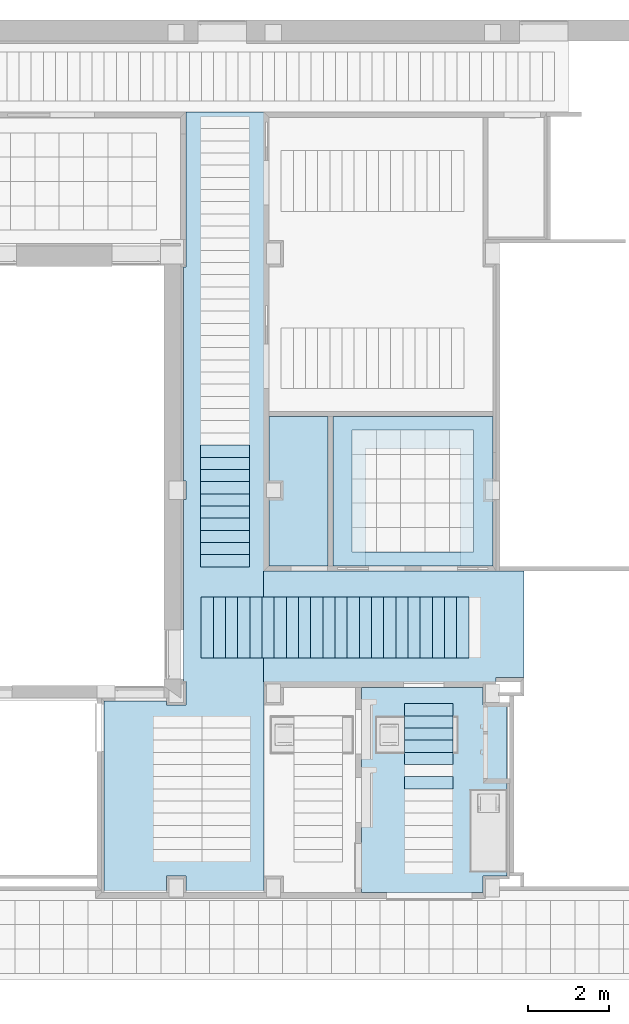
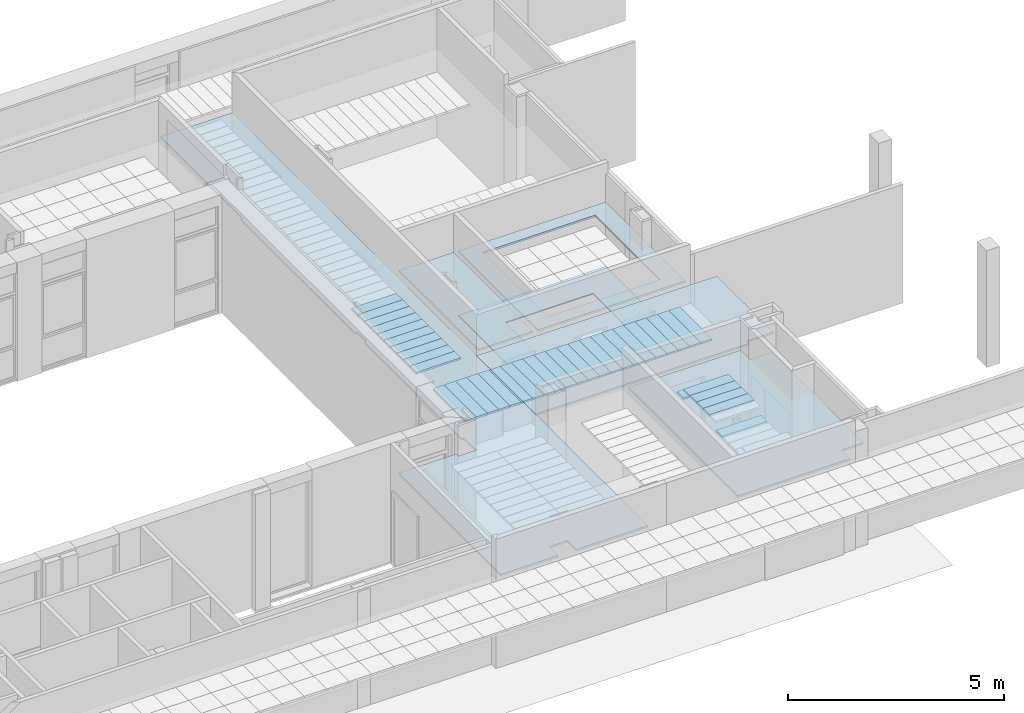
# One storey, part 11 of 60: 44 slabs.
"""IFC2X3 building model written with IfcOpenShell, lengths in millimetres."""

from ifc_helpers import new_model, entity, si_unit, converted_unit, derived_unit, money_unit, direction, frame, origin_with_axes, place, context, subcontext, project, spatial, polyline, outline, extrude, material, layer, layer_set, layer_usage, type_object, element, save


model = new_model("IFC2X3")

# Units and contexts
model_context = context("Model", 3, precision=0.01, world=origin_with_axes(), true_north=direction((0.0, 1.0)))
body_context = subcontext(model_context, "Body", "Model", "MODEL_VIEW")
ifc_project = project(units=[si_unit("LENGTHUNIT", "METRE", prefix="MILLI"), si_unit("AREAUNIT", "SQUARE_METRE"), si_unit("VOLUMEUNIT", "CUBIC_METRE"), converted_unit("PLANEANGLEUNIT", "DEGREE", entity("IfcPlaneAngleMeasure", 0.0174532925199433), si_unit("PLANEANGLEUNIT", "RADIAN"), dimensions=[0, 0, 0, 0, 0, 0, 0]), money_unit("USD"), converted_unit("TIMEUNIT", "Year", entity("IfcTimeMeasure", 31557600.0), si_unit("TIMEUNIT", "SECOND"), dimensions=[0, 0, 1, 0, 0, 0, 0]), si_unit("MASSUNIT", "GRAM", prefix="KILO"), si_unit("THERMODYNAMICTEMPERATUREUNIT", "DEGREE_CELSIUS"), si_unit("LUMINOUSINTENSITYUNIT", "LUMEN"), si_unit("ENERGYUNIT", "JOULE", prefix="MEGA"), derived_unit("THERMALCONDUCTANCEUNIT", [(si_unit("POWERUNIT", "WATT"), 1), (si_unit("LENGTHUNIT", "METRE"), -1), (si_unit("THERMODYNAMICTEMPERATUREUNIT", "KELVIN"), -1)]), derived_unit("SPECIFICHEATCAPACITYUNIT", [(si_unit("ENERGYUNIT", "JOULE"), 1), (si_unit("MASSUNIT", "GRAM", prefix="KILO"), -1), (si_unit("THERMODYNAMICTEMPERATUREUNIT", "KELVIN"), -1)]), derived_unit("MASSDENSITYUNIT", [(si_unit("MASSUNIT", "GRAM", prefix="KILO"), 1), (si_unit("VOLUMEUNIT", "CUBIC_METRE"), -1)])], contexts=[model_context])

# Site, building, storey
site_placement = place(None, origin_with_axes())
site = spatial("IfcSite", under=ifc_project, at=site_placement, Name="Sitio", CompositionType="ELEMENT")
building_placement = place(site_placement, origin_with_axes())
building = spatial("IfcBuilding", under=site, at=building_placement, Name="Construcción", CompositionType="ELEMENT")
storey_placement = place(building_placement, frame((0.0, 0.0, 3650.0), z_axis=(0.0, 0.0, 1.0), x_axis=(1.0, 0.0, 0.0)))
storey = spatial("IfcBuildingStorey", under=building, at=storey_placement, Name="PLANTA 2ª", CompositionType="ELEMENT", Elevation=3650.0)

# Slabs
ifc_material_1 = material(Name="ARQ_ME126_CelRas_Placa_Metallica")
ifc_layer_1 = layer(ifc_material_1, 50.0, ventilated="UNKNOWN")
ifc_layer_set_1 = layer_set([ifc_layer_1], Name="ARQ_ME126_CelRas_Placa_Metallica 50")
ifc_layer_usage_1 = layer_usage(ifc_layer_set_1, "AXIS3", "NEGATIVE", 50.0)
slab_type_1 = type_object("IfcSlabType", Name="ARQ_ME126_CelRas_Placa_Metallica 50", PredefinedType="NOTDEFINED")
slab_1_placement = place(storey_placement, frame((3832.900750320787, -13971.4759060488, 2500.0), z_axis=(0.0, 0.0, 1.0), x_axis=(1.0, 0.0, 0.0)))
element("IfcSlab", 1, at=slab_1_placement, inside=storey, type_object=slab_type_1, material=ifc_layer_usage_1, Name="SLA - 026", PredefinedType="NOTDEFINED", context=body_context, shape_type="SweptSolid", body=[
    extrude(outline(polyline([(0.0, 0.0), (1199.999999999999, 0.0), (1199.999999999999, 299.9999999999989), (0.0, 299.9999999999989), (0.0, 0.0)])), frame((0.0, 0.0, -50.0), z_axis=(0.0, 0.0, 1.0), x_axis=(1.0, 0.0, 0.0)), (0.0, 0.0, 1.0), 50.0),
])
ifc_layer_usage_2 = layer_usage(ifc_layer_set_1, "AXIS3", "NEGATIVE", 50.0)
slab_2_placement = place(storey_placement, frame((3832.900750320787, -14571.4759060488, 2250.0), z_axis=(0.0, 0.0, 1.0), x_axis=(1.0, 0.0, 0.0)))
element("IfcSlab", 2, at=slab_2_placement, inside=storey, type_object=slab_type_1, material=ifc_layer_usage_2, Name="SLA - 026", PredefinedType="NOTDEFINED", context=body_context, shape_type="SweptSolid", body=[
    extrude(outline(polyline([(0.0, 0.0), (1199.999999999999, 0.0), (1199.999999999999, 299.9999999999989), (0.0, 299.9999999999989), (0.0, 0.0)])), frame((0.0, 0.0, -50.0), z_axis=(0.0, 0.0, 1.0), x_axis=(1.0, 0.0, 0.0)), (0.0, 0.0, 1.0), 50.0),
])
ifc_layer_usage_3 = layer_usage(ifc_layer_set_1, "AXIS3", "NEGATIVE", 50.0)
slab_3_placement = place(storey_placement, frame((3832.900750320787, -13671.4759060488, 2500.0), z_axis=(0.0, 0.0, 1.0), x_axis=(1.0, 0.0, 0.0)))
element("IfcSlab", 3, at=slab_3_placement, inside=storey, type_object=slab_type_1, material=ifc_layer_usage_3, Name="SLA - 026", PredefinedType="NOTDEFINED", context=body_context, shape_type="SweptSolid", body=[
    extrude(outline(polyline([(0.0, 0.0), (1199.999999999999, 0.0), (1199.999999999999, 299.9999999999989), (0.0, 299.9999999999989), (0.0, 0.0)])), frame((0.0, 0.0, -50.0), z_axis=(0.0, 0.0, 1.0), x_axis=(1.0, 0.0, 0.0)), (0.0, 0.0, 1.0), 50.0),
])
ifc_layer_usage_4 = layer_usage(ifc_layer_set_1, "AXIS3", "NEGATIVE", 50.0)
slab_4_placement = place(storey_placement, frame((3832.900750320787, -13371.4759060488, 2500.0), z_axis=(0.0, 0.0, 1.0), x_axis=(1.0, 0.0, 0.0)))
element("IfcSlab", 4, at=slab_4_placement, inside=storey, type_object=slab_type_1, material=ifc_layer_usage_4, Name="SLA - 026", PredefinedType="NOTDEFINED", context=body_context, shape_type="SweptSolid", body=[
    extrude(outline(polyline([(0.0, 0.0), (1199.999999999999, 0.0), (1199.999999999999, 299.9999999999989), (0.0, 299.9999999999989), (0.0, 0.0)])), frame((0.0, 0.0, -50.0), z_axis=(0.0, 0.0, 1.0), x_axis=(1.0, 0.0, 0.0)), (0.0, 0.0, 1.0), 50.0),
])
ifc_layer_usage_5 = layer_usage(ifc_layer_set_1, "AXIS3", "NEGATIVE", 50.0)
slab_5_placement = place(storey_placement, frame((3832.900750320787, -12771.4759060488, 2250.0), z_axis=(0.0, 0.0, 1.0), x_axis=(1.0, 0.0, 0.0)))
element("IfcSlab", 5, at=slab_5_placement, inside=storey, type_object=slab_type_1, material=ifc_layer_usage_5, Name="SLA - 026", PredefinedType="NOTDEFINED", context=body_context, shape_type="SweptSolid", body=[
    extrude(outline(polyline([(0.0, 0.0), (1199.999999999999, 0.0), (1199.999999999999, 299.9999999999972), (0.0, 299.9999999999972), (0.0, 0.0)])), frame((0.0, 0.0, -50.0), z_axis=(0.0, 0.0, 1.0), x_axis=(1.0, 0.0, 0.0)), (0.0, 0.0, 1.0), 50.0),
])
ifc_layer_usage_6 = layer_usage(ifc_layer_set_1, "AXIS3", "NEGATIVE", 50.0)
slab_6_placement = place(storey_placement, frame((3832.900750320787, -13071.4759060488, 2500.0), z_axis=(0.0, 0.0, 1.0), x_axis=(1.0, 0.0, 0.0)))
element("IfcSlab", 6, at=slab_6_placement, inside=storey, type_object=slab_type_1, material=ifc_layer_usage_6, Name="SLA - 026", PredefinedType="NOTDEFINED", context=body_context, shape_type="SweptSolid", body=[
    extrude(outline(polyline([(0.0, 0.0), (1199.999999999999, 0.0), (1199.999999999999, 299.9999999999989), (0.0, 299.9999999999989), (0.0, 0.0)])), frame((0.0, 0.0, -50.0), z_axis=(0.0, 0.0, 1.0), x_axis=(1.0, 0.0, 0.0)), (0.0, 0.0, 1.0), 50.0),
])
ifc_layer_usage_7 = layer_usage(ifc_layer_set_1, "AXIS3", "NEGATIVE", 50.0)
slab_7_placement = place(storey_placement, frame((-881.1090049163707, -11348.19832695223, 2500.0), z_axis=(0.0, 0.0, 1.0), x_axis=(1.0, 0.0, 0.0)))
element("IfcSlab", 7, at=slab_7_placement, inside=storey, type_object=slab_type_1, material=ifc_layer_usage_7, Name="SLA - 026", PredefinedType="NOTDEFINED", context=body_context, shape_type="SweptSolid", body=[
    extrude(outline(polyline([(0.0, 0.0), (0.0, 1500.0), (-299.9999999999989, 1500.0), (-299.9999999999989, 0.0), (0.0, 0.0)])), frame((0.0, 0.0, -50.0), z_axis=(0.0, 0.0, 1.0), x_axis=(1.0, 0.0, 0.0)), (0.0, 0.0, 1.0), 50.0),
])
ifc_layer_usage_8 = layer_usage(ifc_layer_set_1, "AXIS3", "NEGATIVE", 50.0)
slab_8_placement = place(storey_placement, frame((5418.890995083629, -11348.19832695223, 2500.0), z_axis=(0.0, 0.0, 1.0), x_axis=(1.0, 0.0, 0.0)))
element("IfcSlab", 8, at=slab_8_placement, inside=storey, type_object=slab_type_1, material=ifc_layer_usage_8, Name="SLA - 026", PredefinedType="NOTDEFINED", context=body_context, shape_type="SweptSolid", body=[
    extrude(outline(polyline([(0.0, 0.0), (0.0, 1500.0), (-299.9999999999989, 1500.0), (-299.9999999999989, 0.0), (0.0, 0.0)])), frame((0.0, 0.0, -50.0), z_axis=(0.0, 0.0, 1.0), x_axis=(1.0, 0.0, 0.0)), (0.0, 0.0, 1.0), 50.0),
])
ifc_layer_usage_9 = layer_usage(ifc_layer_set_1, "AXIS3", "NEGATIVE", 50.0)
slab_9_placement = place(storey_placement, frame((5118.89099508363, -11348.19832695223, 2500.0), z_axis=(0.0, 0.0, 1.0), x_axis=(1.0, 0.0, 0.0)))
element("IfcSlab", 9, at=slab_9_placement, inside=storey, type_object=slab_type_1, material=ifc_layer_usage_9, Name="SLA - 026", PredefinedType="NOTDEFINED", context=body_context, shape_type="SweptSolid", body=[
    extrude(outline(polyline([(0.0, 0.0), (0.0, 1500.0), (-299.9999999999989, 1500.0), (-299.9999999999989, 0.0), (0.0, 0.0)])), frame((0.0, 0.0, -50.0), z_axis=(0.0, 0.0, 1.0), x_axis=(1.0, 0.0, 0.0)), (0.0, 0.0, 1.0), 50.0),
])
ifc_layer_usage_10 = layer_usage(ifc_layer_set_1, "AXIS3", "NEGATIVE", 50.0)
slab_10_placement = place(storey_placement, frame((4818.890995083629, -11348.19832695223, 2500.0), z_axis=(0.0, 0.0, 1.0), x_axis=(1.0, 0.0, 0.0)))
element("IfcSlab", 10, at=slab_10_placement, inside=storey, type_object=slab_type_1, material=ifc_layer_usage_10, Name="SLA - 026", PredefinedType="NOTDEFINED", context=body_context, shape_type="SweptSolid", body=[
    extrude(outline(polyline([(0.0, 0.0), (0.0, 1500.0), (-299.9999999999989, 1500.0), (-299.9999999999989, 0.0), (0.0, 0.0)])), frame((0.0, 0.0, -50.0), z_axis=(0.0, 0.0, 1.0), x_axis=(1.0, 0.0, 0.0)), (0.0, 0.0, 1.0), 50.0),
])
ifc_layer_usage_11 = layer_usage(ifc_layer_set_1, "AXIS3", "NEGATIVE", 50.0)
slab_11_placement = place(storey_placement, frame((4518.890995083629, -11348.19832695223, 2500.0), z_axis=(0.0, 0.0, 1.0), x_axis=(1.0, 0.0, 0.0)))
element("IfcSlab", 11, at=slab_11_placement, inside=storey, type_object=slab_type_1, material=ifc_layer_usage_11, Name="SLA - 026", PredefinedType="NOTDEFINED", context=body_context, shape_type="SweptSolid", body=[
    extrude(outline(polyline([(0.0, 0.0), (0.0, 1500.0), (-299.9999999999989, 1500.0), (-299.9999999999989, 0.0), (0.0, 0.0)])), frame((0.0, 0.0, -50.0), z_axis=(0.0, 0.0, 1.0), x_axis=(1.0, 0.0, 0.0)), (0.0, 0.0, 1.0), 50.0),
])
ifc_layer_usage_12 = layer_usage(ifc_layer_set_1, "AXIS3", "NEGATIVE", 50.0)
slab_12_placement = place(storey_placement, frame((4218.890995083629, -11348.19832695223, 2500.0), z_axis=(0.0, 0.0, 1.0), x_axis=(1.0, 0.0, 0.0)))
element("IfcSlab", 12, at=slab_12_placement, inside=storey, type_object=slab_type_1, material=ifc_layer_usage_12, Name="SLA - 026", PredefinedType="NOTDEFINED", context=body_context, shape_type="SweptSolid", body=[
    extrude(outline(polyline([(0.0, 0.0), (0.0, 1500.0), (-299.9999999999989, 1500.0), (-299.9999999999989, 0.0), (0.0, 0.0)])), frame((0.0, 0.0, -50.0), z_axis=(0.0, 0.0, 1.0), x_axis=(1.0, 0.0, 0.0)), (0.0, 0.0, 1.0), 50.0),
])
ifc_layer_usage_13 = layer_usage(ifc_layer_set_1, "AXIS3", "NEGATIVE", 50.0)
slab_13_placement = place(storey_placement, frame((3918.890995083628, -11348.19832695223, 2500.0), z_axis=(0.0, 0.0, 1.0), x_axis=(1.0, 0.0, 0.0)))
element("IfcSlab", 13, at=slab_13_placement, inside=storey, type_object=slab_type_1, material=ifc_layer_usage_13, Name="SLA - 026", PredefinedType="NOTDEFINED", context=body_context, shape_type="SweptSolid", body=[
    extrude(outline(polyline([(0.0, 0.0), (0.0, 1500.0), (-299.9999999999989, 1500.0), (-299.9999999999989, 0.0), (0.0, 0.0)])), frame((0.0, 0.0, -50.0), z_axis=(0.0, 0.0, 1.0), x_axis=(1.0, 0.0, 0.0)), (0.0, 0.0, 1.0), 50.0),
])
ifc_layer_usage_14 = layer_usage(ifc_layer_set_1, "AXIS3", "NEGATIVE", 50.0)
slab_14_placement = place(storey_placement, frame((3618.890995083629, -11348.19832695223, 2500.0), z_axis=(0.0, 0.0, 1.0), x_axis=(1.0, 0.0, 0.0)))
element("IfcSlab", 14, at=slab_14_placement, inside=storey, type_object=slab_type_1, material=ifc_layer_usage_14, Name="SLA - 026", PredefinedType="NOTDEFINED", context=body_context, shape_type="SweptSolid", body=[
    extrude(outline(polyline([(0.0, 0.0), (0.0, 1500.0), (-299.9999999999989, 1500.0), (-299.9999999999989, 0.0), (0.0, 0.0)])), frame((0.0, 0.0, -50.0), z_axis=(0.0, 0.0, 1.0), x_axis=(1.0, 0.0, 0.0)), (0.0, 0.0, 1.0), 50.0),
])
ifc_layer_usage_15 = layer_usage(ifc_layer_set_1, "AXIS3", "NEGATIVE", 50.0)
slab_15_placement = place(storey_placement, frame((3318.890995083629, -11348.19832695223, 2500.0), z_axis=(0.0, 0.0, 1.0), x_axis=(1.0, 0.0, 0.0)))
element("IfcSlab", 15, at=slab_15_placement, inside=storey, type_object=slab_type_1, material=ifc_layer_usage_15, Name="SLA - 026", PredefinedType="NOTDEFINED", context=body_context, shape_type="SweptSolid", body=[
    extrude(outline(polyline([(0.0, 0.0), (0.0, 1500.0), (-299.9999999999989, 1500.0), (-299.9999999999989, 0.0), (0.0, 0.0)])), frame((0.0, 0.0, -50.0), z_axis=(0.0, 0.0, 1.0), x_axis=(1.0, 0.0, 0.0)), (0.0, 0.0, 1.0), 50.0),
])
ifc_layer_usage_16 = layer_usage(ifc_layer_set_1, "AXIS3", "NEGATIVE", 50.0)
slab_16_placement = place(storey_placement, frame((3018.890995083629, -11348.19832695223, 2500.0), z_axis=(0.0, 0.0, 1.0), x_axis=(1.0, 0.0, 0.0)))
element("IfcSlab", 16, at=slab_16_placement, inside=storey, type_object=slab_type_1, material=ifc_layer_usage_16, Name="SLA - 026", PredefinedType="NOTDEFINED", context=body_context, shape_type="SweptSolid", body=[
    extrude(outline(polyline([(0.0, 0.0), (0.0, 1500.0), (-299.9999999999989, 1500.0), (-299.9999999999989, 0.0), (0.0, 0.0)])), frame((0.0, 0.0, -50.0), z_axis=(0.0, 0.0, 1.0), x_axis=(1.0, 0.0, 0.0)), (0.0, 0.0, 1.0), 50.0),
])
ifc_layer_usage_17 = layer_usage(ifc_layer_set_1, "AXIS3", "NEGATIVE", 50.0)
slab_17_placement = place(storey_placement, frame((2718.890995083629, -11348.19832695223, 2500.0), z_axis=(0.0, 0.0, 1.0), x_axis=(1.0, 0.0, 0.0)))
element("IfcSlab", 17, at=slab_17_placement, inside=storey, type_object=slab_type_1, material=ifc_layer_usage_17, Name="SLA - 026", PredefinedType="NOTDEFINED", context=body_context, shape_type="SweptSolid", body=[
    extrude(outline(polyline([(0.0, 0.0), (0.0, 1500.0), (-299.9999999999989, 1500.0), (-299.9999999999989, 0.0), (0.0, 0.0)])), frame((0.0, 0.0, -50.0), z_axis=(0.0, 0.0, 1.0), x_axis=(1.0, 0.0, 0.0)), (0.0, 0.0, 1.0), 50.0),
])
ifc_layer_usage_18 = layer_usage(ifc_layer_set_1, "AXIS3", "NEGATIVE", 50.0)
slab_18_placement = place(storey_placement, frame((2418.890995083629, -11348.19832695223, 2500.0), z_axis=(0.0, 0.0, 1.0), x_axis=(1.0, 0.0, 0.0)))
element("IfcSlab", 18, at=slab_18_placement, inside=storey, type_object=slab_type_1, material=ifc_layer_usage_18, Name="SLA - 026", PredefinedType="NOTDEFINED", context=body_context, shape_type="SweptSolid", body=[
    extrude(outline(polyline([(0.0, 0.0), (0.0, 1500.0), (-299.9999999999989, 1500.0), (-299.9999999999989, 0.0), (0.0, 0.0)])), frame((0.0, 0.0, -50.0), z_axis=(0.0, 0.0, 1.0), x_axis=(1.0, 0.0, 0.0)), (0.0, 0.0, 1.0), 50.0),
])
ifc_layer_usage_19 = layer_usage(ifc_layer_set_1, "AXIS3", "NEGATIVE", 50.0)
slab_19_placement = place(storey_placement, frame((2118.890995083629, -11348.19832695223, 2500.0), z_axis=(0.0, 0.0, 1.0), x_axis=(1.0, 0.0, 0.0)))
element("IfcSlab", 19, at=slab_19_placement, inside=storey, type_object=slab_type_1, material=ifc_layer_usage_19, Name="SLA - 026", PredefinedType="NOTDEFINED", context=body_context, shape_type="SweptSolid", body=[
    extrude(outline(polyline([(0.0, 0.0), (0.0, 1500.0), (-299.9999999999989, 1500.0), (-299.9999999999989, 0.0), (0.0, 0.0)])), frame((0.0, 0.0, -50.0), z_axis=(0.0, 0.0, 1.0), x_axis=(1.0, 0.0, 0.0)), (0.0, 0.0, 1.0), 50.0),
])
ifc_layer_usage_20 = layer_usage(ifc_layer_set_1, "AXIS3", "NEGATIVE", 50.0)
slab_20_placement = place(storey_placement, frame((1818.890995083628, -11348.19832695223, 2500.0), z_axis=(0.0, 0.0, 1.0), x_axis=(1.0, 0.0, 0.0)))
element("IfcSlab", 20, at=slab_20_placement, inside=storey, type_object=slab_type_1, material=ifc_layer_usage_20, Name="SLA - 026", PredefinedType="NOTDEFINED", context=body_context, shape_type="SweptSolid", body=[
    extrude(outline(polyline([(0.0, 0.0), (0.0, 1500.0), (-299.9999999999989, 1500.0), (-299.9999999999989, 0.0), (0.0, 0.0)])), frame((0.0, 0.0, -50.0), z_axis=(0.0, 0.0, 1.0), x_axis=(1.0, 0.0, 0.0)), (0.0, 0.0, 1.0), 50.0),
])
ifc_layer_usage_21 = layer_usage(ifc_layer_set_1, "AXIS3", "NEGATIVE", 50.0)
slab_21_placement = place(storey_placement, frame((1518.890995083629, -11348.19832695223, 2500.0), z_axis=(0.0, 0.0, 1.0), x_axis=(1.0, 0.0, 0.0)))
element("IfcSlab", 21, at=slab_21_placement, inside=storey, type_object=slab_type_1, material=ifc_layer_usage_21, Name="SLA - 026", PredefinedType="NOTDEFINED", context=body_context, shape_type="SweptSolid", body=[
    extrude(outline(polyline([(0.0, 0.0), (0.0, 1500.0), (-299.9999999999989, 1500.0), (-299.9999999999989, 0.0), (0.0, 0.0)])), frame((0.0, 0.0, -50.0), z_axis=(0.0, 0.0, 1.0), x_axis=(1.0, 0.0, 0.0)), (0.0, 0.0, 1.0), 50.0),
])
ifc_layer_usage_22 = layer_usage(ifc_layer_set_1, "AXIS3", "NEGATIVE", 50.0)
slab_22_placement = place(storey_placement, frame((1218.890995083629, -11348.19832695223, 2500.0), z_axis=(0.0, 0.0, 1.0), x_axis=(1.0, 0.0, 0.0)))
element("IfcSlab", 22, at=slab_22_placement, inside=storey, type_object=slab_type_1, material=ifc_layer_usage_22, Name="SLA - 026", PredefinedType="NOTDEFINED", context=body_context, shape_type="SweptSolid", body=[
    extrude(outline(polyline([(0.0, 0.0), (0.0, 1500.0), (-299.9999999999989, 1500.0), (-299.9999999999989, 0.0), (0.0, 0.0)])), frame((0.0, 0.0, -50.0), z_axis=(0.0, 0.0, 1.0), x_axis=(1.0, 0.0, 0.0)), (0.0, 0.0, 1.0), 50.0),
])
ifc_layer_usage_23 = layer_usage(ifc_layer_set_1, "AXIS3", "NEGATIVE", 50.0)
slab_23_placement = place(storey_placement, frame((618.8909950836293, -11348.19832695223, 2500.0), z_axis=(0.0, 0.0, 1.0), x_axis=(1.0, 0.0, 0.0)))
element("IfcSlab", 23, at=slab_23_placement, inside=storey, type_object=slab_type_1, material=ifc_layer_usage_23, Name="SLA - 026", PredefinedType="NOTDEFINED", context=body_context, shape_type="SweptSolid", body=[
    extrude(outline(polyline([(0.0, 0.0), (0.0, 1500.0), (-299.9999999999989, 1500.0), (-299.9999999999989, 0.0), (0.0, 0.0)])), frame((0.0, 0.0, -50.0), z_axis=(0.0, 0.0, 1.0), x_axis=(1.0, 0.0, 0.0)), (0.0, 0.0, 1.0), 50.0),
])
ifc_layer_usage_24 = layer_usage(ifc_layer_set_1, "AXIS3", "NEGATIVE", 50.0)
slab_24_placement = place(storey_placement, frame((318.8909950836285, -11348.19832695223, 2500.0), z_axis=(0.0, 0.0, 1.0), x_axis=(1.0, 0.0, 0.0)))
element("IfcSlab", 24, at=slab_24_placement, inside=storey, type_object=slab_type_1, material=ifc_layer_usage_24, Name="SLA - 026", PredefinedType="NOTDEFINED", context=body_context, shape_type="SweptSolid", body=[
    extrude(outline(polyline([(0.0, 0.0), (0.0, 1500.0), (-299.9999999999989, 1500.0), (-299.9999999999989, 0.0), (0.0, 0.0)])), frame((0.0, 0.0, -50.0), z_axis=(0.0, 0.0, 1.0), x_axis=(1.0, 0.0, 0.0)), (0.0, 0.0, 1.0), 50.0),
])
ifc_layer_usage_25 = layer_usage(ifc_layer_set_1, "AXIS3", "NEGATIVE", 50.0)
slab_25_placement = place(storey_placement, frame((-281.1090049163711, -11348.19832695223, 2500.0), z_axis=(0.0, 0.0, 1.0), x_axis=(1.0, 0.0, 0.0)))
element("IfcSlab", 25, at=slab_25_placement, inside=storey, type_object=slab_type_1, material=ifc_layer_usage_25, Name="SLA - 026", PredefinedType="NOTDEFINED", context=body_context, shape_type="SweptSolid", body=[
    extrude(outline(polyline([(0.0, 0.0), (0.0, 1500.0), (-299.9999999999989, 1500.0), (-299.9999999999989, 0.0), (0.0, 0.0)])), frame((0.0, 0.0, -50.0), z_axis=(0.0, 0.0, 1.0), x_axis=(1.0, 0.0, 0.0)), (0.0, 0.0, 1.0), 50.0),
])
ifc_layer_usage_26 = layer_usage(ifc_layer_set_1, "AXIS3", "NEGATIVE", 50.0)
slab_26_placement = place(storey_placement, frame((-581.109004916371, -11348.19832695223, 2500.0), z_axis=(0.0, 0.0, 1.0), x_axis=(1.0, 0.0, 0.0)))
element("IfcSlab", 26, at=slab_26_placement, inside=storey, type_object=slab_type_1, material=ifc_layer_usage_26, Name="SLA - 026", PredefinedType="NOTDEFINED", context=body_context, shape_type="SweptSolid", body=[
    extrude(outline(polyline([(0.0, 0.0), (0.0, 1500.0), (-299.9999999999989, 1500.0), (-299.9999999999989, 0.0), (0.0, 0.0)])), frame((0.0, 0.0, -50.0), z_axis=(0.0, 0.0, 1.0), x_axis=(1.0, 0.0, 0.0)), (0.0, 0.0, 1.0), 50.0),
])
ifc_layer_usage_27 = layer_usage(ifc_layer_set_1, "AXIS3", "NEGATIVE", 50.0)
slab_27_placement = place(storey_placement, frame((-1192.609613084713, -8799.146944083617, 2500.0), z_axis=(0.0, 0.0, 1.0), x_axis=(1.0, 0.0, 0.0)))
element("IfcSlab", 27, at=slab_27_placement, inside=storey, type_object=slab_type_1, material=ifc_layer_usage_27, Name="SLA - 026", PredefinedType="NOTDEFINED", context=body_context, shape_type="SweptSolid", body=[
    extrude(outline(polyline([(0.0, 0.0), (1199.999999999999, 0.0), (1199.999999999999, 299.9999999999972), (0.0, 299.9999999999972), (0.0, 0.0)])), frame((0.0, 0.0, -50.0), z_axis=(0.0, 0.0, 1.0), x_axis=(1.0, 0.0, 0.0)), (0.0, 0.0, 1.0), 50.0),
])
ifc_layer_usage_28 = layer_usage(ifc_layer_set_1, "AXIS3", "NEGATIVE", 50.0)
slab_28_placement = place(storey_placement, frame((-1192.609613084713, -8499.146944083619, 2500.0), z_axis=(0.0, 0.0, 1.0), x_axis=(1.0, 0.0, 0.0)))
element("IfcSlab", 28, at=slab_28_placement, inside=storey, type_object=slab_type_1, material=ifc_layer_usage_28, Name="SLA - 026", PredefinedType="NOTDEFINED", context=body_context, shape_type="SweptSolid", body=[
    extrude(outline(polyline([(0.0, 0.0), (1199.999999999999, 0.0), (1199.999999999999, 299.9999999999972), (0.0, 299.9999999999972), (0.0, 0.0)])), frame((0.0, 0.0, -50.0), z_axis=(0.0, 0.0, 1.0), x_axis=(1.0, 0.0, 0.0)), (0.0, 0.0, 1.0), 50.0),
])
ifc_layer_usage_29 = layer_usage(ifc_layer_set_1, "AXIS3", "NEGATIVE", 50.0)
slab_29_placement = place(storey_placement, frame((18.89099508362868, -11348.19832695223, 2500.0), z_axis=(0.0, 0.0, 1.0), x_axis=(1.0, 0.0, 0.0)))
element("IfcSlab", 29, at=slab_29_placement, inside=storey, type_object=slab_type_1, material=ifc_layer_usage_29, Name="SLA - 026", PredefinedType="NOTDEFINED", context=body_context, shape_type="SweptSolid", body=[
    extrude(outline(polyline([(0.0, 0.0), (0.0, 1500.0), (-299.9999999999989, 1500.0), (-299.9999999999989, 0.0), (0.0, 0.0)])), frame((0.0, 0.0, -50.0), z_axis=(0.0, 0.0, 1.0), x_axis=(1.0, 0.0, 0.0)), (0.0, 0.0, 1.0), 50.0),
])
ifc_layer_usage_30 = layer_usage(ifc_layer_set_1, "AXIS3", "NEGATIVE", 50.0)
slab_30_placement = place(storey_placement, frame((-1192.609613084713, -8199.146944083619, 2500.0), z_axis=(0.0, 0.0, 1.0), x_axis=(1.0, 0.0, 0.0)))
element("IfcSlab", 30, at=slab_30_placement, inside=storey, type_object=slab_type_1, material=ifc_layer_usage_30, Name="SLA - 026", PredefinedType="NOTDEFINED", context=body_context, shape_type="SweptSolid", body=[
    extrude(outline(polyline([(0.0, 0.0), (1199.999999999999, 0.0), (1199.999999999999, 299.9999999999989), (0.0, 299.9999999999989), (0.0, 0.0)])), frame((0.0, 0.0, -50.0), z_axis=(0.0, 0.0, 1.0), x_axis=(1.0, 0.0, 0.0)), (0.0, 0.0, 1.0), 50.0),
])
ifc_layer_usage_31 = layer_usage(ifc_layer_set_1, "AXIS3", "NEGATIVE", 50.0)
slab_31_placement = place(storey_placement, frame((-1192.609613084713, -7899.14694408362, 2500.0), z_axis=(0.0, 0.0, 1.0), x_axis=(1.0, 0.0, 0.0)))
element("IfcSlab", 31, at=slab_31_placement, inside=storey, type_object=slab_type_1, material=ifc_layer_usage_31, Name="SLA - 026", PredefinedType="NOTDEFINED", context=body_context, shape_type="SweptSolid", body=[
    extrude(outline(polyline([(0.0, 0.0), (1199.999999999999, 0.0), (1199.999999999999, 299.9999999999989), (0.0, 299.9999999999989), (0.0, 0.0)])), frame((0.0, 0.0, -50.0), z_axis=(0.0, 0.0, 1.0), x_axis=(1.0, 0.0, 0.0)), (0.0, 0.0, 1.0), 50.0),
])
ifc_layer_usage_32 = layer_usage(ifc_layer_set_1, "AXIS3", "NEGATIVE", 50.0)
slab_32_placement = place(storey_placement, frame((-1192.609613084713, -7599.146944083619, 2500.0), z_axis=(0.0, 0.0, 1.0), x_axis=(1.0, 0.0, 0.0)))
element("IfcSlab", 32, at=slab_32_placement, inside=storey, type_object=slab_type_1, material=ifc_layer_usage_32, Name="SLA - 026", PredefinedType="NOTDEFINED", context=body_context, shape_type="SweptSolid", body=[
    extrude(outline(polyline([(0.0, 0.0), (1199.999999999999, 0.0), (1199.999999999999, 299.9999999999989), (0.0, 299.9999999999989), (0.0, 0.0)])), frame((0.0, 0.0, -50.0), z_axis=(0.0, 0.0, 1.0), x_axis=(1.0, 0.0, 0.0)), (0.0, 0.0, 1.0), 50.0),
])
ifc_layer_usage_33 = layer_usage(ifc_layer_set_1, "AXIS3", "NEGATIVE", 50.0)
slab_33_placement = place(storey_placement, frame((-1192.609613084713, -7299.146944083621, 2500.0), z_axis=(0.0, 0.0, 1.0), x_axis=(1.0, 0.0, 0.0)))
element("IfcSlab", 33, at=slab_33_placement, inside=storey, type_object=slab_type_1, material=ifc_layer_usage_33, Name="SLA - 026", PredefinedType="NOTDEFINED", context=body_context, shape_type="SweptSolid", body=[
    extrude(outline(polyline([(0.0, 0.0), (1199.999999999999, 0.0), (1199.999999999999, 299.9999999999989), (0.0, 299.9999999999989), (0.0, 0.0)])), frame((0.0, 0.0, -50.0), z_axis=(0.0, 0.0, 1.0), x_axis=(1.0, 0.0, 0.0)), (0.0, 0.0, 1.0), 50.0),
])
ifc_layer_usage_34 = layer_usage(ifc_layer_set_1, "AXIS3", "NEGATIVE", 50.0)
slab_34_placement = place(storey_placement, frame((-1192.609613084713, -6999.14694408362, 2500.0), z_axis=(0.0, 0.0, 1.0), x_axis=(1.0, 0.0, 0.0)))
element("IfcSlab", 34, at=slab_34_placement, inside=storey, type_object=slab_type_1, material=ifc_layer_usage_34, Name="SLA - 026", PredefinedType="NOTDEFINED", context=body_context, shape_type="SweptSolid", body=[
    extrude(outline(polyline([(0.0, 0.0), (1199.999999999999, 0.0), (1199.999999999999, 299.9999999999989), (0.0, 299.9999999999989), (0.0, 0.0)])), frame((0.0, 0.0, -50.0), z_axis=(0.0, 0.0, 1.0), x_axis=(1.0, 0.0, 0.0)), (0.0, 0.0, 1.0), 50.0),
])
ifc_layer_usage_35 = layer_usage(ifc_layer_set_1, "AXIS3", "NEGATIVE", 50.0)
slab_35_placement = place(storey_placement, frame((-1192.609613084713, -6699.146944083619, 2500.0), z_axis=(0.0, 0.0, 1.0), x_axis=(1.0, 0.0, 0.0)))
element("IfcSlab", 35, at=slab_35_placement, inside=storey, type_object=slab_type_1, material=ifc_layer_usage_35, Name="SLA - 026", PredefinedType="NOTDEFINED", context=body_context, shape_type="SweptSolid", body=[
    extrude(outline(polyline([(0.0, 0.0), (1199.999999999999, 0.0), (1199.999999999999, 299.9999999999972), (0.0, 299.9999999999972), (0.0, 0.0)])), frame((0.0, 0.0, -50.0), z_axis=(0.0, 0.0, 1.0), x_axis=(1.0, 0.0, 0.0)), (0.0, 0.0, 1.0), 50.0),
])
ifc_layer_usage_36 = layer_usage(ifc_layer_set_1, "AXIS3", "NEGATIVE", 50.0)
slab_36_placement = place(storey_placement, frame((-1192.609613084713, -6399.14694408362, 2500.0), z_axis=(0.0, 0.0, 1.0), x_axis=(1.0, 0.0, 0.0)))
element("IfcSlab", 36, at=slab_36_placement, inside=storey, type_object=slab_type_1, material=ifc_layer_usage_36, Name="SLA - 026", PredefinedType="NOTDEFINED", context=body_context, shape_type="SweptSolid", body=[
    extrude(outline(polyline([(0.0, 0.0), (1199.999999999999, 0.0), (1199.999999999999, 299.9999999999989), (0.0, 299.9999999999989), (0.0, 0.0)])), frame((0.0, 0.0, -50.0), z_axis=(0.0, 0.0, 1.0), x_axis=(1.0, 0.0, 0.0)), (0.0, 0.0, 1.0), 50.0),
])
ifc_layer_usage_37 = layer_usage(ifc_layer_set_1, "AXIS3", "NEGATIVE", 50.0)
slab_37_placement = place(storey_placement, frame((-1192.609613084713, -9099.146944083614, 2500.0), z_axis=(0.0, 0.0, 1.0), x_axis=(1.0, 0.0, 0.0)))
element("IfcSlab", 37, at=slab_37_placement, inside=storey, type_object=slab_type_1, material=ifc_layer_usage_37, Name="SLA - 026", PredefinedType="NOTDEFINED", context=body_context, shape_type="SweptSolid", body=[
    extrude(outline(polyline([(0.0, 0.0), (1199.999999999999, 0.0), (1199.999999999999, 299.9999999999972), (0.0, 299.9999999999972), (0.0, 0.0)])), frame((0.0, 0.0, -50.0), z_axis=(0.0, 0.0, 1.0), x_axis=(1.0, 0.0, 0.0)), (0.0, 0.0, 1.0), 50.0),
])
ifc_layer_usage_38 = layer_usage(ifc_layer_set_1, "AXIS3", "NEGATIVE", 50.0)
slab_38_placement = place(storey_placement, frame((918.890995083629, -11348.19832695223, 2500.0), z_axis=(0.0, 0.0, 1.0), x_axis=(1.0, 0.0, 0.0)))
element("IfcSlab", 38, at=slab_38_placement, inside=storey, type_object=slab_type_1, material=ifc_layer_usage_38, Name="SLA - 026", PredefinedType="NOTDEFINED", context=body_context, shape_type="SweptSolid", body=[
    extrude(outline(polyline([(0.0, 0.0), (0.0, 1500.0), (-299.9999999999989, 1500.0), (-299.9999999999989, 0.0), (0.0, 0.0)])), frame((0.0, 0.0, -50.0), z_axis=(0.0, 0.0, 1.0), x_axis=(1.0, 0.0, 0.0)), (0.0, 0.0, 1.0), 50.0),
])
ifc_material_2 = material(Name="ARQ_FU091_HPL")
ifc_layer_2 = layer(ifc_material_2, 30.0, ventilated="UNKNOWN")
ifc_layer_set_2 = layer_set([ifc_layer_2], Name="ARQ_FU091_HPL 30")
ifc_layer_usage_39 = layer_usage(ifc_layer_set_2, "AXIS3", "NEGATIVE", 30.0)
slab_type_2 = type_object("IfcSlabType", Name="ARQ_FU091_HPL 30", PredefinedType="NOTDEFINED")
slab_39_placement = place(storey_placement, frame((6016.105854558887, -9073.420994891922, 730.0), z_axis=(0.0, 0.0, 1.0), x_axis=(1.0, 0.0, 0.0)))
element("IfcSlab", 39, at=slab_39_placement, inside=storey, type_object=slab_type_2, material=ifc_layer_usage_39, Name="SLA - 028", PredefinedType="NOTDEFINED", context=body_context, shape_type="SweptSolid", body=[
    extrude(outline(polyline([(0.0, 0.0), (0.0, 3684.096455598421), (-3942.686159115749, 3684.096455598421), (-3942.68615911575, -5.807901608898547), (-3142.68615911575, -5.807901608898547), (-3142.68615911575, 2884.096455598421), (-799.9999999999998, 2884.096455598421), (-799.9999999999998, 0.0), (0.0, 0.0)])), frame((0.0, 0.0, -30.0), z_axis=(0.0, 0.0, 1.0), x_axis=(1.0, 0.0, 0.0)), (0.0, 0.0, 1.0), 30.0),
])
ifc_material_3 = material(Name="ARQ_CG064_CelRas_Guix_Continu")
ifc_layer_3 = layer(ifc_material_3, 53.0, ventilated="UNKNOWN")
ifc_layer_set_3 = layer_set([ifc_layer_3], Name="ARQ_CG064_CelRas_Guix_Continu 53")
ifc_layer_usage_40 = layer_usage(ifc_layer_set_3, "AXIS3", "NEGATIVE", 53.0)
slab_type_3 = type_object("IfcSlabType", Name="ARQ_CG064_CelRas_Guix_Continu 53", PredefinedType="NOTDEFINED")
slab_40_placement = place(storey_placement, frame((492.8909950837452, -9073.420994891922, 2550.0), z_axis=(0.0, 0.0, 1.0), x_axis=(1.0, 0.0, 0.0)))
element("IfcSlab", 40, at=slab_40_placement, inside=storey, type_object=slab_type_3, material=ifc_layer_usage_40, Name="SLA - 015", PredefinedType="NOTDEFINED", context=body_context, shape_type="SweptSolid", body=[
    extrude(outline(polyline([(0.0, 0.0), (1458.528700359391, 0.0), (1458.528700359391, 3684.096455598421), (0.0, 3684.096455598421), (0.0, 0.0)])), frame((0.0, 0.0, -53.0), z_axis=(0.0, 0.0, 1.0), x_axis=(1.0, 0.0, 0.0)), (0.0, 0.0, 1.0), 53.0),
])
ifc_layer_usage_41 = layer_usage(ifc_layer_set_3, "AXIS3", "NEGATIVE", 53.0)
slab_41_placement = place(storey_placement, frame((2073.419695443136, -9073.420994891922, 2550.0), z_axis=(0.0, 0.0, 1.0), x_axis=(1.0, 0.0, 0.0)))
element("IfcSlab", 41, at=slab_41_placement, inside=storey, type_object=slab_type_3, material=ifc_layer_usage_41, Name="SLA - 016", PredefinedType="NOTDEFINED", context=body_context, shape_type="SweptSolid", body=[
    extrude(outline(polyline([(0.0, 0.0), (3942.68615911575, 0.0), (3942.68615911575, 3684.096455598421), (0.0, 3684.096455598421), (0.0, 0.0)]), holes=[polyline([(464.9999999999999, 3342.048227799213), (3465.000000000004, 3342.048227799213), (3465.000000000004, 342.0482277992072), (464.9999999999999, 342.0482277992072), (464.9999999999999, 3342.048227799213)])]), frame((0.0, 0.0, -53.0), z_axis=(0.0, 0.0, 1.0), x_axis=(1.0, 0.0, 0.0)), (0.0, 0.0, 1.0), 53.0),
])
ifc_layer_usage_42 = layer_usage(ifc_layer_set_3, "AXIS3", "NEGATIVE", 53.0)
slab_42_placement = place(storey_placement, frame((358.8909950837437, -11933.97598840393, 2500.0), z_axis=(0.0, 0.0, 1.0), x_axis=(1.0, 0.0, 0.0)))
element("IfcSlab", 42, at=slab_42_placement, inside=storey, type_object=slab_type_3, material=ifc_layer_usage_42, Name="SLA - 017", PredefinedType="NOTDEFINED", context=body_context, shape_type="SweptSolid", body=[
    extrude(outline(polyline([(0.0, 0.0), (5723.214859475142, 0.0), (5723.214859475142, 109.9999999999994), (6423.214859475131, 109.9999999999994), (6423.214859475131, 2726.554993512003), (0.0, 2726.554993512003), (0.0, 0.0)])), frame((0.0, 0.0, -53.0), z_axis=(0.0, 0.0, 1.0), x_axis=(1.0, 0.0, 0.0)), (0.0, 0.0, 1.0), 53.0),
])
ifc_layer_usage_43 = layer_usage(ifc_layer_set_3, "AXIS3", "NEGATIVE", 53.0)
slab_43_placement = place(storey_placement, frame((-3573.894203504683, -17130.97565901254, 2500.0), z_axis=(0.0, 0.0, 1.0), x_axis=(1.0, 0.0, 0.0)))
element("IfcSlab", 43, at=slab_43_placement, inside=storey, type_object=slab_type_3, material=ifc_layer_usage_43, Name="SLA - 017", PredefinedType="NOTDEFINED", context=body_context, shape_type="SweptSolid", body=[
    extrude(outline(polyline([(0.0, 0.0), (1537.785149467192, 0.0), (1537.785149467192, 406.9998366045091), (2017.785202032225, 406.9998366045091), (2017.785202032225, 0.0), (3937.78520203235, 0.0), (3937.785374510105, 19240.53051070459), (2021.00026252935, 19240.53053752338), (2017.785198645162, 15426.99983530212), (1957.785150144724, 15426.999834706), (1957.785202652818, 10142.00105118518), (2017.785251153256, 10142.00105178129), (2017.785251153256, 9691.998969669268), (1959.664026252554, 9692.032882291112), (1957.043615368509, 5201.035665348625), (2015.164840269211, 5201.00175272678), (2021.000058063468, 4626.999670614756), (1537.785196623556, 4626.999670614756), (1537.785149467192, 4726.999835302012), (0.0, 4726.999835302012), (0.0, 0.0)])), frame((0.0, 0.0, -53.0), z_axis=(0.0, 0.0, 1.0), x_axis=(1.0, 0.0, 0.0)), (0.0, 0.0, 1.0), 53.0),
])
ifc_layer_usage_44 = layer_usage(ifc_layer_set_3, "AXIS3", "NEGATIVE", 53.0)
slab_44_placement = place(storey_placement, frame((2768.912972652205, -17130.97565901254, 2500.0), z_axis=(0.0, 0.0, 1.0), x_axis=(1.0, 0.0, 0.0)))
element("IfcSlab", 44, at=slab_44_placement, inside=storey, type_object=slab_type_3, material=ifc_layer_usage_44, Name="SLA - 017", PredefinedType="NOTDEFINED", context=body_context, shape_type="SweptSolid", body=[
    extrude(outline(polyline([(0.0, 0.0), (2994.978022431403, 0.0), (2994.978074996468, 407.0000006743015), (3590.779883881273, 407.0000080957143), (3590.779831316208, 4626.999842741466), (2994.978022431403, 4626.999835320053), (2994.978022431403, 5060.999835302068), (0.0, 5060.999835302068), (0.0, 0.0)])), frame((0.0, 0.0, -53.0), z_axis=(0.0, 0.0, 1.0), x_axis=(1.0, 0.0, 0.0)), (0.0, 0.0, 1.0), 53.0),
])

save(model, "model.ifc")
